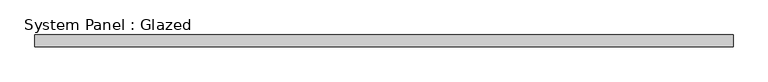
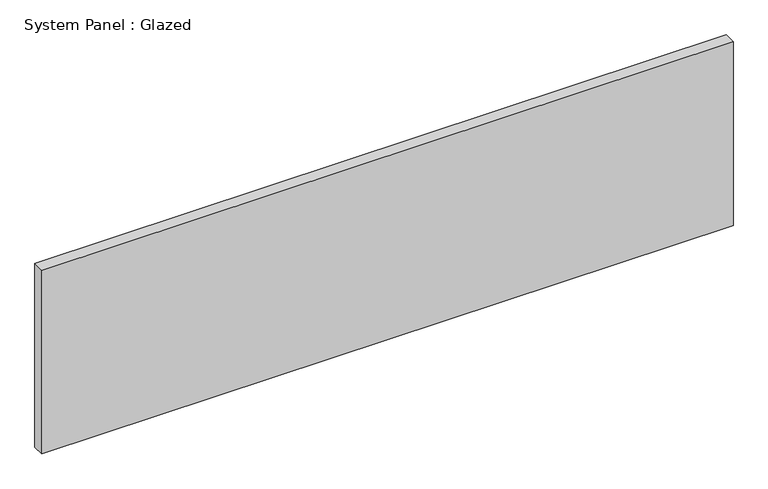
"""IFC4 building model written with IfcOpenShell, lengths in millimetres: plate geometry, System Panel : Glazed."""

from ifc_helpers import new_model, si_unit, origin, origin_with_axes, place, context, project, spatial, polyline, outline, extrude, source, transform, mapped, element, save


def system_panel_glazed_7ee34cb0(model_context):
    return source(origin(), model_context, "Body", "SweptSolid", [
        extrude(outline(polyline([(724.5000001, -49.5), (-724.5000001, -49.5), (-724.5000001, -24.5), (724.5000001, -24.5), (724.5000001, -49.5)])), origin_with_axes(), (0.0, 0.0, 1.0), 407.2),
    ])


if __name__ == "__main__":
    model = new_model("IFC4")
    model_context = context("Model", 3, world=origin())
    ifc_project = project(units=[si_unit("LENGTHUNIT", "METRE", prefix="MILLI")], contexts=[model_context])
    site = spatial("IfcSite", under=ifc_project)
    building = spatial("IfcBuilding", under=site)
    placement = place(None, origin())
    system_panel_glazed_shape = system_panel_glazed_7ee34cb0(model_context)
    element("IfcPlate", 1, ObjectType="System Panel : Glazed", at=placement, inside=building, context=model_context, shape_type="MappedRepresentation", body=[
        mapped(system_panel_glazed_shape, transform((0.0, 0.0, 0.0), x_axis=(1.0, 0.0, 0.0), y_axis=(0.0, 1.0, 0.0), z_axis=(0.0, 0.0, 1.0))),
    ])
    save(model, "model.ifc")
